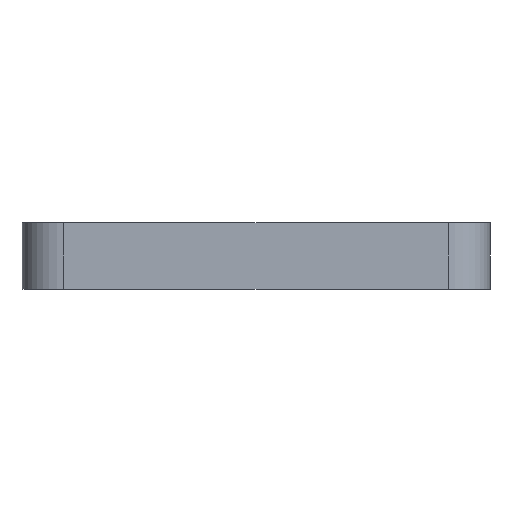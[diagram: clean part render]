
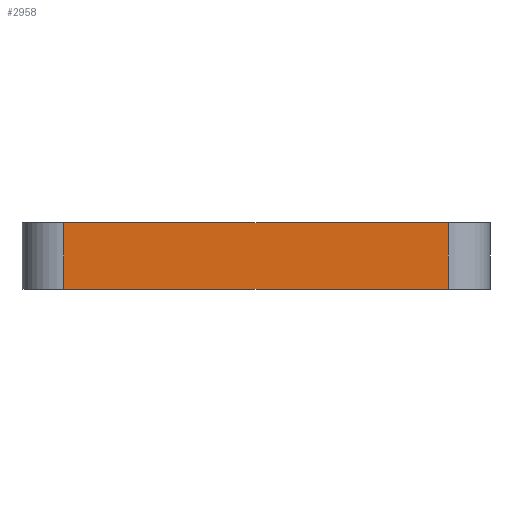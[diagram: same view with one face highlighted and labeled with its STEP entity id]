
A CAD part, front view. The second image highlights one B-rep face of the part: STEP entity #2958.
In plain terms, the highlighted planar face has unit normal (0, -1, 0).
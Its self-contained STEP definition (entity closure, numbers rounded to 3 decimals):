
#44 = PLANE('',#45);
#45 = AXIS2_PLACEMENT_3D('',#46,#47,#48);
#46 = CARTESIAN_POINT('',(0.,-32.648,-4.));
#47 = DIRECTION('',(0.,0.,1.));
#48 = DIRECTION('',(1.,0.,0.));
#100 = PLANE('',#101);
#101 = AXIS2_PLACEMENT_3D('',#102,#103,#104);
#102 = CARTESIAN_POINT('',(0.,-32.648,4.));
#103 = DIRECTION('',(0.,0.,1.));
#104 = DIRECTION('',(1.,0.,0.));
#126 = CYLINDRICAL_SURFACE('',#127,5.);
#127 = AXIS2_PLACEMENT_3D('',#128,#129,#130);
#128 = CARTESIAN_POINT('',(23.,-65.,-4.));
#129 = DIRECTION('',(0.,0.,1.));
#130 = DIRECTION('',(1.,0.,0.));
#194 = VERTEX_POINT('',#195);
#195 = CARTESIAN_POINT('',(-23.,-70.,-4.));
#214 = CYLINDRICAL_SURFACE('',#215,5.);
#215 = AXIS2_PLACEMENT_3D('',#216,#217,#218);
#216 = CARTESIAN_POINT('',(-23.,-65.,-4.));
#217 = DIRECTION('',(0.,0.,1.));
#218 = DIRECTION('',(0.,-1.,0.));
#226 = EDGE_CURVE('',#227,#194,#229,.T.);
#227 = VERTEX_POINT('',#228);
#228 = CARTESIAN_POINT('',(23.,-70.,-4.));
#229 = SURFACE_CURVE('',#230,(#234,#241),.PCURVE_S1.);
#230 = LINE('',#231,#232);
#231 = CARTESIAN_POINT('',(28.,-70.,-4.));
#232 = VECTOR('',#233,1.);
#233 = DIRECTION('',(-1.,0.,0.));
#234 = PCURVE('',#44,#235);
#235 = DEFINITIONAL_REPRESENTATION('',(#236),#240);
#236 = LINE('',#237,#238);
#237 = CARTESIAN_POINT('',(28.,-37.352));
#238 = VECTOR('',#239,1.);
#239 = DIRECTION('',(-1.,0.));
#240 = ( GEOMETRIC_REPRESENTATION_CONTEXT(2) 
PARAMETRIC_REPRESENTATION_CONTEXT() REPRESENTATION_CONTEXT('2D SPACE',''
  ) );
#241 = PCURVE('',#242,#247);
#242 = PLANE('',#243);
#243 = AXIS2_PLACEMENT_3D('',#244,#245,#246);
#244 = CARTESIAN_POINT('',(28.,-70.,-4.));
#245 = DIRECTION('',(0.,-1.,0.));
#246 = DIRECTION('',(-1.,0.,0.));
#247 = DEFINITIONAL_REPRESENTATION('',(#248),#252);
#248 = LINE('',#249,#250);
#249 = CARTESIAN_POINT('',(0.,-0.));
#250 = VECTOR('',#251,1.);
#251 = DIRECTION('',(1.,0.));
#252 = ( GEOMETRIC_REPRESENTATION_CONTEXT(2) 
PARAMETRIC_REPRESENTATION_CONTEXT() REPRESENTATION_CONTEXT('2D SPACE',''
  ) );
#1468 = EDGE_CURVE('',#227,#1469,#1471,.T.);
#1469 = VERTEX_POINT('',#1470);
#1470 = CARTESIAN_POINT('',(23.,-70.,4.));
#1471 = SURFACE_CURVE('',#1472,(#1476,#1483),.PCURVE_S1.);
#1472 = LINE('',#1473,#1474);
#1473 = CARTESIAN_POINT('',(23.,-70.,-4.));
#1474 = VECTOR('',#1475,1.);
#1475 = DIRECTION('',(0.,0.,1.));
#1476 = PCURVE('',#126,#1477);
#1477 = DEFINITIONAL_REPRESENTATION('',(#1478),#1482);
#1478 = LINE('',#1479,#1480);
#1479 = CARTESIAN_POINT('',(-1.571,0.));
#1480 = VECTOR('',#1481,1.);
#1481 = DIRECTION('',(-0.,1.));
#1482 = ( GEOMETRIC_REPRESENTATION_CONTEXT(2) 
PARAMETRIC_REPRESENTATION_CONTEXT() REPRESENTATION_CONTEXT('2D SPACE',''
  ) );
#1483 = PCURVE('',#242,#1484);
#1484 = DEFINITIONAL_REPRESENTATION('',(#1485),#1489);
#1485 = LINE('',#1486,#1487);
#1486 = CARTESIAN_POINT('',(5.,0.));
#1487 = VECTOR('',#1488,1.);
#1488 = DIRECTION('',(0.,-1.));
#1489 = ( GEOMETRIC_REPRESENTATION_CONTEXT(2) 
PARAMETRIC_REPRESENTATION_CONTEXT() REPRESENTATION_CONTEXT('2D SPACE',''
  ) );
#1967 = VERTEX_POINT('',#1968);
#1968 = CARTESIAN_POINT('',(-23.,-70.,4.));
#1994 = EDGE_CURVE('',#1469,#1967,#1995,.T.);
#1995 = SURFACE_CURVE('',#1996,(#2000,#2007),.PCURVE_S1.);
#1996 = LINE('',#1997,#1998);
#1997 = CARTESIAN_POINT('',(28.,-70.,4.));
#1998 = VECTOR('',#1999,1.);
#1999 = DIRECTION('',(-1.,0.,0.));
#2000 = PCURVE('',#100,#2001);
#2001 = DEFINITIONAL_REPRESENTATION('',(#2002),#2006);
#2002 = LINE('',#2003,#2004);
#2003 = CARTESIAN_POINT('',(28.,-37.352));
#2004 = VECTOR('',#2005,1.);
#2005 = DIRECTION('',(-1.,0.));
#2006 = ( GEOMETRIC_REPRESENTATION_CONTEXT(2) 
PARAMETRIC_REPRESENTATION_CONTEXT() REPRESENTATION_CONTEXT('2D SPACE',''
  ) );
#2007 = PCURVE('',#242,#2008);
#2008 = DEFINITIONAL_REPRESENTATION('',(#2009),#2013);
#2009 = LINE('',#2010,#2011);
#2010 = CARTESIAN_POINT('',(0.,-8.));
#2011 = VECTOR('',#2012,1.);
#2012 = DIRECTION('',(1.,0.));
#2013 = ( GEOMETRIC_REPRESENTATION_CONTEXT(2) 
PARAMETRIC_REPRESENTATION_CONTEXT() REPRESENTATION_CONTEXT('2D SPACE',''
  ) );
#2958 = ADVANCED_FACE('',(#2959),#242,.T.);
#2959 = FACE_BOUND('',#2960,.T.);
#2960 = EDGE_LOOP('',(#2961,#2962,#2963,#2964));
#2961 = ORIENTED_EDGE('',*,*,#226,.F.);
#2962 = ORIENTED_EDGE('',*,*,#1468,.T.);
#2963 = ORIENTED_EDGE('',*,*,#1994,.T.);
#2964 = ORIENTED_EDGE('',*,*,#2965,.F.);
#2965 = EDGE_CURVE('',#194,#1967,#2966,.T.);
#2966 = SURFACE_CURVE('',#2967,(#2971,#2978),.PCURVE_S1.);
#2967 = LINE('',#2968,#2969);
#2968 = CARTESIAN_POINT('',(-23.,-70.,-4.));
#2969 = VECTOR('',#2970,1.);
#2970 = DIRECTION('',(0.,0.,1.));
#2971 = PCURVE('',#242,#2972);
#2972 = DEFINITIONAL_REPRESENTATION('',(#2973),#2977);
#2973 = LINE('',#2974,#2975);
#2974 = CARTESIAN_POINT('',(51.,0.));
#2975 = VECTOR('',#2976,1.);
#2976 = DIRECTION('',(0.,-1.));
#2977 = ( GEOMETRIC_REPRESENTATION_CONTEXT(2) 
PARAMETRIC_REPRESENTATION_CONTEXT() REPRESENTATION_CONTEXT('2D SPACE',''
  ) );
#2978 = PCURVE('',#214,#2979);
#2979 = DEFINITIONAL_REPRESENTATION('',(#2980),#2984);
#2980 = LINE('',#2981,#2982);
#2981 = CARTESIAN_POINT('',(-0.,0.));
#2982 = VECTOR('',#2983,1.);
#2983 = DIRECTION('',(-0.,1.));
#2984 = ( GEOMETRIC_REPRESENTATION_CONTEXT(2) 
PARAMETRIC_REPRESENTATION_CONTEXT() REPRESENTATION_CONTEXT('2D SPACE',''
  ) );
